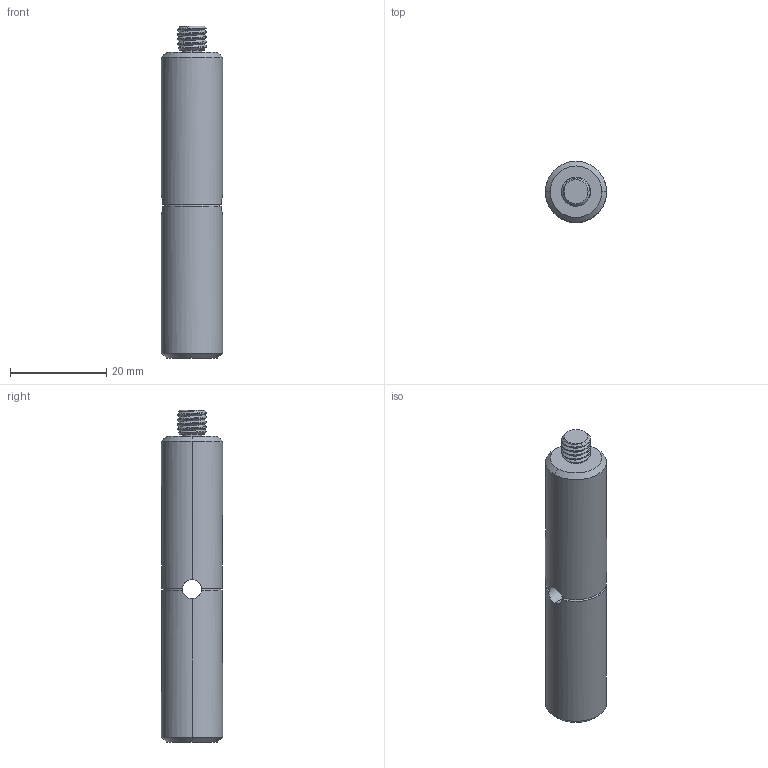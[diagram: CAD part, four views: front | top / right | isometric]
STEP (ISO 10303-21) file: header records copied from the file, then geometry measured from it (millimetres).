
FILE_DESCRIPTION((''),'2;1');
FILE_NAME('PCAH2_5-A','2023-03-14T14:26:01',('R&D'),(''),'CREO PARAMETRIC BY PTC INC, 2022162','CREO PARAMETRIC BY PTC INC, 2022162','');
FILE_SCHEMA(('CONFIG_CONTROL_DESIGN'));
Length unit declared in the file: millimetre
Products named in the file (1): PCAH2_5-A
Bounding box: 12.7 x 12.7 x 69 mm (x, y, z)
Volume: 7690.8 mm3; surface area: 3273.1 mm2
Topology: 1 solids, 1 shells, 69 faces, 184 edges, 116 vertices
Faces by surface type: cylinder 37, bspline 14, cone 12, plane 4, torus 2
Entity records: 4706 total; most frequent: CARTESIAN_POINT 3161, ORIENTED_EDGE 364, DIRECTION 229, EDGE_CURVE 182, VERTEX_POINT 116, B_SPLINE_CURVE_WITH_KNOTS 93, AXIS2_PLACEMENT_3D 85, EDGE_LOOP 72
